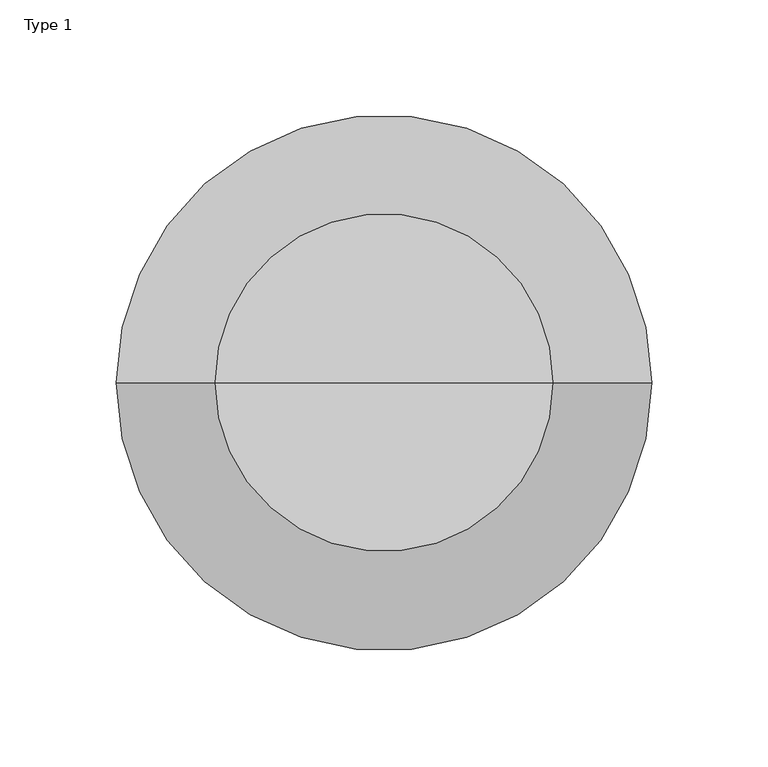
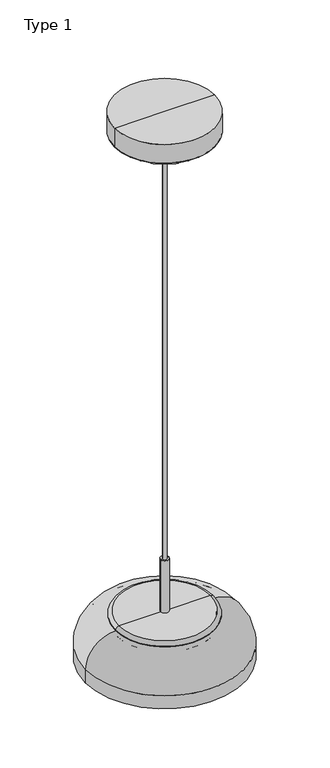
"""IFC4 building model written with IfcOpenShell, lengths in millimetres: light fixture geometry, Nuura - Blossi 1 - Ceiling Based : Type 1."""

import ifcopenshell
import ifcopenshell.guid

model = None  # the IFC model being written
_history = None  # IfcOwnerHistory: only IFC2X3 demands one
_inside = {}  # id of a spatial element -> (the spatial element, [elements in it])
_under = {}  # id of a project, library or spatial element -> (it, [spatial elements below it])
_declared = {}  # id of a project -> (the project, [libraries it declares])
_typed = {}  # id of a type object -> (the type object, [elements of that type])
_made_of = {}  # id of a material, layer set ... -> (it, [elements and type objects made of it])


def new_model(schema):
    """Start an empty IFC model of exactly this schema.

    Asked for "IFC4X3", IfcOpenShell would pick the latest addendum, in which some entities
    have other attributes; the version numbers below select the first issue.
    IFC2X3 requires an IfcOwnerHistory on every rooted entity: one is made here for all.
    """
    global model, _history
    if schema == "IFC4X3":
        model = ifcopenshell.file(schema_version=(4, 3, 0, 0))
    else:
        model = ifcopenshell.file(schema=schema)
    _inside.clear()
    _under.clear()
    _declared.clear()
    _typed.clear()
    _made_of.clear()
    _history = None
    if model.schema == "IFC2X3":
        org = make("IfcOrganization", Name="unknown")
        user = make(
            "IfcPersonAndOrganization",
            ThePerson=make("IfcPerson", FamilyName="unknown"),
            TheOrganization=org,
        )
        app = make(
            "IfcApplication",
            ApplicationDeveloper=org,
            Version="unknown",
            ApplicationFullName="unknown",
            ApplicationIdentifier="unknown",
        )
        _history = make(
            "IfcOwnerHistory",
            OwningUser=user,
            OwningApplication=app,
            ChangeAction="ADDED",
            CreationDate=0,
        )
    return model


def make(cls, **values):
    """One entity of the class cls with the attributes given. An attribute that is None is left unset."""
    return model.create_entity(
        cls, **{name: value for name, value in values.items() if value is not None}
    )


def rooted(cls, **values):
    """An entity with a GlobalId (a new one), such as an element, a storey or a relation."""
    return make(cls, GlobalId=ifcopenshell.guid.new(), OwnerHistory=_history, **values)


def si_unit(unit_type, name, prefix=None):
    """IfcSIUnit, for example si_unit("LENGTHUNIT", "METRE", prefix="MILLI")."""
    return make("IfcSIUnit", UnitType=unit_type, Prefix=prefix, Name=name)


def assignment(units):
    """IfcUnitAssignment: the units of a project."""
    return None if units is None else make("IfcUnitAssignment", Units=units)


def point(xyz):
    """IfcCartesianPoint."""
    return None if xyz is None else make("IfcCartesianPoint", Coordinates=xyz)


def direction(xyz):
    """IfcDirection."""
    return None if xyz is None else make("IfcDirection", DirectionRatios=xyz)


def frame(location, z_axis=None, x_axis=None):
    """IfcAxis2Placement3D, a coordinate frame: its origin and axes. An axis left out is left unset."""
    return make(
        "IfcAxis2Placement3D",
        Location=point(location),
        Axis=direction(z_axis),
        RefDirection=direction(x_axis),
    )


def frame_2d(location, x_axis=None):
    """IfcAxis2Placement2D, a coordinate frame in the plane: its origin and x axis."""
    return make(
        "IfcAxis2Placement2D", Location=point(location), RefDirection=direction(x_axis)
    )


def origin():
    """The frame at (0, 0, 0) with its axes left unset."""
    return frame((0.0, 0.0, 0.0))


def origin_2d():
    """The frame at (0, 0) in the plane with its x axis left unset."""
    return frame_2d((0.0, 0.0))


def place(relative_to, where):
    """IfcLocalPlacement: puts the frame where relative to a parent placement (None: the world)."""
    return make(
        "IfcLocalPlacement", PlacementRelTo=relative_to, RelativePlacement=where
    )


def context(
    kind, dimensions, precision=None, world=None, true_north=None, identifier=None
):
    """IfcGeometricRepresentationContext, for example the 3D "Model" context."""
    return make(
        "IfcGeometricRepresentationContext",
        ContextIdentifier=identifier,
        ContextType=kind,
        CoordinateSpaceDimension=dimensions,
        Precision=precision,
        WorldCoordinateSystem=world,
        TrueNorth=true_north,
    )


def project(units=None, contexts=None):
    """IfcProject with its units and contexts."""
    return rooted(
        "IfcProject",
        Name="project",
        RepresentationContexts=contexts,
        UnitsInContext=assignment(units),
    )


def spatial(cls, under=None, at=None, **own):
    """A site, building, storey or space (cls), placed at a placement, below another one or the project."""
    s = rooted(cls, ObjectPlacement=at, **own)
    if under is not None:
        _under.setdefault(under.id(), (under, []))[1].append(s)
    return s


def polyline(points):
    """IfcPolyline through the points."""
    return make("IfcPolyline", Points=[point(p) for p in points])


def circle_curve(where, radius):
    """IfcCircle in the frame where."""
    return make("IfcCircle", Position=where, Radius=radius)


def ellipse_curve(where, semi_axis1, semi_axis2):
    """IfcEllipse in the frame where."""
    return make(
        "IfcEllipse", Position=where, SemiAxis1=semi_axis1, SemiAxis2=semi_axis2
    )


def trimmed(basis, trim1, trim2, sense, master):
    """IfcTrimmedCurve: the piece of a basis curve between two trims."""
    return make(
        "IfcTrimmedCurve",
        BasisCurve=basis,
        Trim1=trim1,
        Trim2=trim2,
        SenseAgreement=sense,
        MasterRepresentation=master,
    )


def segment(curve, same_sense, transition):
    """IfcCompositeCurveSegment."""
    return make(
        "IfcCompositeCurveSegment",
        Transition=transition,
        SameSense=same_sense,
        ParentCurve=curve,
    )


def composite_curve(segments, self_intersect=None):
    """IfcCompositeCurve: segments joined end to end."""
    return make("IfcCompositeCurve", Segments=segments, SelfIntersect=self_intersect)


def outline(outer, holes=None, kind="AREA"):
    """IfcArbitraryClosedProfileDef: a profile drawn as a closed curve; with holes, ...WithVoids."""
    if holes is None:
        return make("IfcArbitraryClosedProfileDef", ProfileType=kind, OuterCurve=outer)
    return make(
        "IfcArbitraryProfileDefWithVoids",
        ProfileType=kind,
        OuterCurve=outer,
        InnerCurves=holes,
    )


def extrude(swept, where, along, depth):
    """IfcExtrudedAreaSolid: the profile swept, set in the frame where, extruded along a direction by depth."""
    return make(
        "IfcExtrudedAreaSolid",
        SweptArea=swept,
        Position=where,
        ExtrudedDirection=direction(along),
        Depth=depth,
    )


def shape(context_of_items, identifier, shape_type, items):
    """IfcShapeRepresentation: the items that make up one representation, for example the "Body"."""
    return make(
        "IfcShapeRepresentation",
        ContextOfItems=context_of_items,
        RepresentationIdentifier=identifier,
        RepresentationType=shape_type,
        Items=items,
    )


def source(mapping_origin, context_of_items, identifier, shape_type, items):
    """IfcRepresentationMap: a shape defined once, which mapped items show again and again."""
    return make(
        "IfcRepresentationMap",
        MappingOrigin=mapping_origin,
        MappedRepresentation=shape(context_of_items, identifier, shape_type, items),
    )


def transform(
    local_origin,
    x_axis=None,
    y_axis=None,
    z_axis=None,
    scale=None,
    scale2=None,
    scale3=None,
    uniform=True,
):
    """IfcCartesianTransformationOperator3D, or its non-uniform kind. x_axis, y_axis, z_axis: its Axis1, 2, 3."""
    if uniform:
        return make(
            "IfcCartesianTransformationOperator3D",
            Axis1=direction(x_axis),
            Axis2=direction(y_axis),
            LocalOrigin=point(local_origin),
            Scale=scale,
            Axis3=direction(z_axis),
        )
    return make(
        "IfcCartesianTransformationOperator3DnonUniform",
        Axis1=direction(x_axis),
        Axis2=direction(y_axis),
        LocalOrigin=point(local_origin),
        Scale=scale,
        Axis3=direction(z_axis),
        Scale2=scale2,
        Scale3=scale3,
    )


def mapped(mapping_source, mapping_target):
    """IfcMappedItem: shows the shape of a source again, moved by a transform."""
    return make(
        "IfcMappedItem", MappingSource=mapping_source, MappingTarget=mapping_target
    )


def made_of(thing, what):
    """Note that an element or type object is made of a material, layer set ...; save() writes the relation."""
    if what is not None:
        _made_of.setdefault(what.id(), (what, []))[1].append(thing)
    return thing


def element(
    cls,
    number,
    at=None,
    inside=None,
    cuts=None,
    type_object=None,
    material=None,
    context=None,
    identifier="Body",
    shape_type=None,
    held_by="IfcProductDefinitionShape",
    body=None,
    shapes=None,
    **own,
):
    """One element of the class cls, such as IfcWall. Its Tag is "e" and its number.

    at: its placement. inside: the storey or other place that contains it. cuts: it is an
    opening in that element (IfcRelVoidsElement). A single representation is given by context,
    identifier, shape_type and body (its items); several are given by shapes. held_by: the class
    of the entity that holds the representations. save() writes the other relations.
    """
    e = rooted(cls, Tag="e%d" % number, ObjectPlacement=at, **own)
    if body is not None:
        shapes = [shape(context, identifier, shape_type, body)]
    if shapes is not None:
        e.Representation = make(held_by, Representations=shapes)
    if inside is not None:
        _inside.setdefault(inside.id(), (inside, []))[1].append(e)
    if cuts is not None:
        rooted(
            "IfcRelVoidsElement", RelatingBuildingElement=cuts, RelatedOpeningElement=e
        )
    if type_object is not None:
        _typed.setdefault(type_object.id(), (type_object, []))[1].append(e)
    return made_of(e, material)


def aggregate(whole, parts):
    """IfcRelAggregates: a whole, such as a stair, and the parts it consists of."""
    return rooted("IfcRelAggregates", RelatingObject=whole, RelatedObjects=parts)


def save(model, path):
    """Write the relations noted so far, then the file.

    IfcRelAggregates (storeys below a building ...), IfcRelContainedInSpatialStructure (elements
    in a storey), IfcRelDefinesByType, IfcRelAssociatesMaterial and IfcRelDeclares: one each for
    every whole, place, type object, material and project.
    """
    for whole, parts in _under.values():
        aggregate(whole, parts)
    for where, things in _inside.values():
        rooted(
            "IfcRelContainedInSpatialStructure",
            RelatedElements=things,
            RelatingStructure=where,
        )
    for kind, things in _typed.values():
        rooted("IfcRelDefinesByType", RelatedObjects=things, RelatingType=kind)
    for what, things in _made_of.values():
        rooted("IfcRelAssociatesMaterial", RelatedObjects=things, RelatingMaterial=what)
    for by, libraries in _declared.values():
        rooted("IfcRelDeclares", RelatingContext=by, RelatedDefinitions=libraries)
    model.write(path)


def plane_surface(at):
    """IfcPlane: the flat surface through the origin of the frame at, square to its z axis."""
    return make("IfcPlane", Position=at)


def cylinder_surface(at, radius):
    """IfcCylindricalSurface: all points at the distance radius from the z axis of the frame at."""
    return make("IfcCylindricalSurface", Position=at, Radius=radius)


def revolved_surface(curve, axis_point, axis_direction):
    """IfcSurfaceOfRevolution: the curve turned about the line through axis_point along axis_direction."""
    return make(
        "IfcSurfaceOfRevolution",
        SweptCurve=make("IfcArbitraryOpenProfileDef", ProfileType="CURVE", Curve=curve),
        AxisPosition=make("IfcAxis1Placement", Location=point(axis_point), Axis=direction(axis_direction)),
    )


def advanced_brep(points, edges, surfaces, faces):
    """IfcAdvancedBrep: a solid bounded by faces that lie on surfaces and meet in shared edges.

    An edge is (start, end): straight between two places in points (the first is 0);
    or (start, end, curve); or (start, end, curve, False) where it runs against its curve.
    A face is (place in surfaces, loops), or (place, loops, False) where it looks against
    its surface's normal. A loop lists edges by number (the first is 1), with a minus sign
    where the edge is run from its end to its start. The first loop is the outer one.
    """
    corners = [point(p) for p in points]
    vertices = [make("IfcVertexPoint", VertexGeometry=c) for c in corners]
    made = []
    for start, end, *more in edges:
        made.append(
            make(
                "IfcEdgeCurve",
                EdgeStart=vertices[start],
                EdgeEnd=vertices[end],
                EdgeGeometry=more[0] if more else make("IfcPolyline", Points=[corners[start], corners[end]]),
                SameSense=more[1] if len(more) > 1 else True,
            )
        )
    hull = []
    for where, loops, *sense in faces:
        bounds = []
        for j, loop in enumerate(loops):
            ring = [make("IfcOrientedEdge", EdgeElement=made[abs(k) - 1], Orientation=k > 0) for k in loop]
            bounds.append(
                make(
                    "IfcFaceOuterBound" if j == 0 else "IfcFaceBound",
                    Bound=make("IfcEdgeLoop", EdgeList=ring),
                    Orientation=True,
                )
            )
        hull.append(make("IfcAdvancedFace", Bounds=bounds, FaceSurface=surfaces[where], SameSense=sense[0] if sense else True))
    return make("IfcAdvancedBrep", Outer=make("IfcClosedShell", CfsFaces=hull))


def type_1_ec86bb28(model_context):
    return source(origin(), model_context, "Body", "SolidModel", [
        advanced_brep(
        [(-65.0, 0.0, 1671.4), (65.0, 0.0, 1671.4), (65.0, 0.0, 1668.4), (-65.0, 0.0, 1668.4), (-61.0, 0.0, 1671.4), (61.0, 0.0, 1671.4), (-61.0, 0.0, 1664.4), (61.0, 0.0, 1664.4), (-71.0, 0.0, 1664.4), (71.0, 0.0, 1664.4), (-111.0, 0.0, 1624.4), (111.0, 0.0, 1624.4), (-111.0, 0.0, 1604.4), (111.0, 0.0, 1604.4), (-115.0, 0.0, 1604.4), (115.0, 0.0, 1604.4), (-115.0, 0.0, 1624.4), (115.0, 0.0, 1624.4), (-71.0, 0.0, 1668.4), (71.0, 0.0, 1668.4)],
        [
            (0, 1, circle_curve(frame((0.0, 0.0, 1671.4), z_axis=(0.0, 0.0, -1.0), x_axis=(1.0, 0.0, 0.0)), 65.0)),
            (1, 2),
            (2, 3, circle_curve(frame((0.0, 0.0, 1668.4), z_axis=(0.0, 0.0, 1.0), x_axis=(1.0, 0.0, 0.0)), 65.0)),
            (3, 0),
            (1, 0, circle_curve(frame((0.0, 0.0, 1671.4), z_axis=(0.0, 0.0, -1.0), x_axis=(1.0, 0.0, 0.0)), 65.0)),
            (3, 2, circle_curve(frame((0.0, 0.0, 1668.4), z_axis=(0.0, 0.0, 1.0), x_axis=(1.0, 0.0, 0.0)), 65.0)),
            (4, 5, circle_curve(frame((0.0, 0.0, 1671.4), z_axis=(0.0, 0.0, -1.0), x_axis=(1.0, 0.0, 0.0)), 61.0)),
            (5, 1),
            (0, 4),
            (5, 4, circle_curve(frame((0.0, 0.0, 1671.4), z_axis=(0.0, 0.0, -1.0), x_axis=(1.0, 0.0, 0.0)), 61.0)),
            (6, 7, circle_curve(frame((0.0, 0.0, 1664.4), z_axis=(0.0, 0.0, -1.0), x_axis=(1.0, 0.0, 0.0)), 61.0)),
            (7, 5),
            (4, 6),
            (7, 6, circle_curve(frame((0.0, 0.0, 1664.4), z_axis=(0.0, 0.0, -1.0), x_axis=(1.0, 0.0, 0.0)), 61.0)),
            (8, 9, circle_curve(frame((0.0, 0.0, 1664.4), z_axis=(0.0, 0.0, -1.0), x_axis=(1.0, 0.0, 0.0)), 71.0)),
            (9, 7),
            (6, 8),
            (9, 8, circle_curve(frame((0.0, 0.0, 1664.4), z_axis=(0.0, 0.0, -1.0), x_axis=(1.0, 0.0, 0.0)), 71.0)),
            (10, 11, circle_curve(frame((0.0, 0.0, 1624.4), z_axis=(0.0, 0.0, -1.0), x_axis=(1.0, 0.0, 0.0)), 111.0)),
            (11, 9, circle_curve(frame((71.0, 0.0, 1624.4), z_axis=(0.0, -1.0, 0.0), x_axis=(1.0, 0.0, 0.0)), 40.0)),
            (8, 10, circle_curve(frame((-71.0, 0.0, 1624.4), z_axis=(0.0, -1.0, 0.0), x_axis=(-1.0, 0.0, 0.0)), 40.0)),
            (11, 10, circle_curve(frame((0.0, 0.0, 1624.4), z_axis=(0.0, 0.0, -1.0), x_axis=(1.0, 0.0, 0.0)), 111.0)),
            (12, 13, circle_curve(frame((0.0, 0.0, 1604.4), z_axis=(0.0, 0.0, -1.0), x_axis=(1.0, 0.0, 0.0)), 111.0)),
            (13, 11),
            (10, 12),
            (13, 12, circle_curve(frame((0.0, 0.0, 1604.4), z_axis=(0.0, 0.0, -1.0), x_axis=(1.0, 0.0, 0.0)), 111.0)),
            (14, 15, circle_curve(frame((0.0, 0.0, 1604.4), z_axis=(0.0, 0.0, -1.0), x_axis=(1.0, 0.0, 0.0)), 115.0)),
            (15, 13),
            (12, 14),
            (15, 14, circle_curve(frame((0.0, 0.0, 1604.4), z_axis=(0.0, 0.0, -1.0), x_axis=(1.0, 0.0, 0.0)), 115.0)),
            (16, 17, circle_curve(frame((0.0, 0.0, 1624.4), z_axis=(0.0, 0.0, -1.0), x_axis=(1.0, 0.0, 0.0)), 115.0)),
            (17, 15),
            (14, 16),
            (17, 16, circle_curve(frame((0.0, 0.0, 1624.4), z_axis=(0.0, 0.0, -1.0), x_axis=(1.0, 0.0, 0.0)), 115.0)),
            (18, 19, circle_curve(frame((0.0, 0.0, 1668.4), z_axis=(0.0, 0.0, -1.0), x_axis=(1.0, 0.0, 0.0)), 71.0)),
            (19, 17, circle_curve(frame((71.0, 0.0, 1624.4), z_axis=(0.0, 1.0, 0.0), x_axis=(1.0, 0.0, 0.0)), 44.0)),
            (16, 18, circle_curve(frame((-71.0, 0.0, 1624.4), z_axis=(0.0, 1.0, 0.0), x_axis=(-1.0, 0.0, 0.0)), 44.0)),
            (19, 18, circle_curve(frame((0.0, 0.0, 1668.4), z_axis=(0.0, 0.0, -1.0), x_axis=(1.0, 0.0, 0.0)), 71.0)),
            (2, 19),
            (18, 3),
        ],
        [
            cylinder_surface(frame((0.0, 0.0, 1706.7574384), z_axis=(0.0, 0.0, 1.0), x_axis=(1.0, 0.0, 0.0)), 65.0),
            plane_surface(frame((0.0, 0.0, 1671.4), z_axis=(0.0, 0.0, 1.0), x_axis=(1.0, 0.0, 0.0))),
            revolved_surface(polyline([(61.0, 0.0, 1671.4), (61.0, 0.0, 1664.4)]), (0.0, 0.0, 1706.7574384), (0.0, 0.0, 1.0)),
            plane_surface(frame((0.0, 0.0, 1664.4), z_axis=(0.0, 0.0, -1.0), x_axis=(1.0, 0.0, 0.0))),
            revolved_surface(trimmed(ellipse_curve(frame((71.0, 0.0, 1624.4), z_axis=(0.0, 1.0, 0.0), x_axis=(1.0, 0.0, 0.0)), 40.0, 40.0), [point((71.0, 0.0, 1664.4))], [point((111.0, 0.0, 1624.4))], True, "CARTESIAN"), (0.0, 0.0, 1706.7574384), (0.0, 0.0, 1.0)),
            revolved_surface(polyline([(111.0, 0.0, 1624.4), (111.0, 0.0, 1604.4)]), (0.0, 0.0, 1706.7574384), (0.0, 0.0, 1.0)),
            plane_surface(frame((0.0, 0.0, 1604.4), z_axis=(0.0, 0.0, -1.0), x_axis=(1.0, 0.0, 0.0))),
            cylinder_surface(frame((0.0, 0.0, 1706.7574384), z_axis=(0.0, 0.0, 1.0), x_axis=(1.0, 0.0, 0.0)), 115.0),
            revolved_surface(trimmed(ellipse_curve(frame((71.0, 0.0, 1624.4), z_axis=(0.0, -1.0, 0.0), x_axis=(1.0, 0.0, 0.0)), 44.0, 44.0), [point((115.0, 0.0, 1624.4))], [point((71.0, 0.0, 1668.4))], True, "CARTESIAN"), (0.0, 0.0, 1706.7574384), (0.0, 0.0, 1.0)),
            plane_surface(frame((0.0, 0.0, 1668.4), z_axis=(0.0, 0.0, 1.0), x_axis=(1.0, 0.0, 0.0))),
        ],
        [
            (0, [[1, 2, 3, 4]]),
            (0, [[5, -4, 6, -2]]),
            (1, [[7, 8, -1, 9]]),
            (1, [[10, -9, -5, -8]]),
            (2, [[11, 12, -7, 13]]),
            (2, [[14, -13, -10, -12]]),
            (3, [[15, 16, -11, 17]]),
            (3, [[18, -17, -14, -16]]),
            (4, [[19, 20, -15, 21]]),
            (4, [[22, -21, -18, -20]]),
            (5, [[23, 24, -19, 25]]),
            (5, [[26, -25, -22, -24]]),
            (6, [[27, 28, -23, 29]]),
            (6, [[30, -29, -26, -28]]),
            (7, [[31, 32, -27, 33]]),
            (7, [[34, -33, -30, -32]]),
            (8, [[35, 36, -31, 37]]),
            (8, [[38, -37, -34, -36]]),
            (9, [[-3, 39, -35, 40]]),
            (9, [[-6, -40, -38, -39]]),
        ],
    ),
        advanced_brep(
        [(5.85, 0.0, 1624.9), (-5.85, 0.0, 1624.9), (-5.85, 0.0, 1658.4), (5.85, 0.0, 1658.4), (0.0, 0.0, 1624.9), (0.0, 0.0, 1658.4)],
        [
            (0, 1, circle_curve(frame((0.0, 0.0, 1624.9), z_axis=(0.0, 0.0, 1.0), x_axis=(-1.0, 0.0, 0.0)), 5.85)),
            (1, 2),
            (2, 3, circle_curve(frame((0.0, 0.0, 1658.4), z_axis=(0.0, 0.0, -1.0), x_axis=(-1.0, 0.0, 0.0)), 5.85)),
            (3, 0),
            (1, 0, circle_curve(frame((0.0, 0.0, 1624.9), z_axis=(0.0, 0.0, 1.0), x_axis=(-1.0, 0.0, 0.0)), 5.85)),
            (3, 2, circle_curve(frame((0.0, 0.0, 1658.4), z_axis=(0.0, 0.0, -1.0), x_axis=(-1.0, 0.0, 0.0)), 5.85)),
            (4, 1),
            (0, 4),
            (2, 5),
            (5, 3),
        ],
        [
            cylinder_surface(frame((0.0, 0.0, 1547.5132457), z_axis=(0.0, 0.0, -1.0), x_axis=(-1.0, 0.0, 0.0)), 5.85),
            plane_surface(frame((0.0, 0.0, 1624.9), z_axis=(0.0, 0.0, -1.0), x_axis=(-1.0, 0.0, 0.0))),
            plane_surface(frame((0.0, 0.0, 1658.4), z_axis=(0.0, 0.0, 1.0), x_axis=(-1.0, 0.0, 0.0))),
        ],
        [
            (0, [[1, 2, 3, 4]]),
            (0, [[5, -4, 6, -2]]),
            (1, [[7, -1, 8]]),
            (1, [[-8, -5, -7]]),
            (2, [[-3, 9, 10]]),
            (2, [[-6, -10, -9]]),
        ],
    ),
        extrude(outline(composite_curve([segment(trimmed(circle_curve(origin_2d(), 3.0), [point((-3.0, 0.0))], [point((3.0, 0.0))], False, "CARTESIAN"), True, "CONTINUOUS"), segment(trimmed(circle_curve(origin_2d(), 3.0), [point((3.0, 0.0))], [point((-3.0, 0.0))], False, "CARTESIAN"), True, "CONTINUOUS")], self_intersect=False)), frame((0.0, 0.0, 1754.4), z_axis=(0.0, 0.0, 1.0), x_axis=(1.0, 0.0, 0.0)), (0.0, 0.0, 1.0), 654.0),
        advanced_brep(
        [(-65.0, 0.0, 1671.4), (65.0, 0.0, 1671.4), (0.0, 0.0, 1671.4), (-65.0, 0.0, 1668.4), (65.0, 0.0, 1668.4), (-71.5, 0.0, 1668.4), (71.5, 0.0, 1668.4), (-71.5, 0.0, 1669.4), (71.5, 0.0, 1669.4), (-66.5, 0.0, 1674.4), (66.5, 0.0, 1674.4), (-6.0, 0.0, 1674.4), (6.0, 0.0, 1674.4), (-6.0, 0.0, 1754.4), (6.0, 0.0, 1754.4), (0.0, 0.0, 1754.4)],
        [
            (0, 1, circle_curve(frame((0.0, 0.0, 1671.4), z_axis=(0.0, 0.0, -1.0), x_axis=(1.0, 0.0, 0.0)), 65.0)),
            (1, 2),
            (2, 0),
            (1, 0, circle_curve(frame((0.0, 0.0, 1671.4), z_axis=(0.0, 0.0, -1.0), x_axis=(1.0, 0.0, 0.0)), 65.0)),
            (3, 4, circle_curve(frame((0.0, 0.0, 1668.4), z_axis=(0.0, 0.0, -1.0), x_axis=(1.0, 0.0, 0.0)), 65.0)),
            (4, 1),
            (0, 3),
            (4, 3, circle_curve(frame((0.0, 0.0, 1668.4), z_axis=(0.0, 0.0, -1.0), x_axis=(1.0, 0.0, 0.0)), 65.0)),
            (5, 6, circle_curve(frame((0.0, 0.0, 1668.4), z_axis=(0.0, 0.0, -1.0), x_axis=(1.0, 0.0, 0.0)), 71.5)),
            (6, 4),
            (3, 5),
            (6, 5, circle_curve(frame((0.0, 0.0, 1668.4), z_axis=(0.0, 0.0, -1.0), x_axis=(1.0, 0.0, 0.0)), 71.5)),
            (7, 8, circle_curve(frame((0.0, 0.0, 1669.4), z_axis=(0.0, 0.0, -1.0), x_axis=(1.0, 0.0, 0.0)), 71.5)),
            (8, 6),
            (5, 7),
            (8, 7, circle_curve(frame((0.0, 0.0, 1669.4), z_axis=(0.0, 0.0, -1.0), x_axis=(1.0, 0.0, 0.0)), 71.5)),
            (9, 10, circle_curve(frame((0.0, 0.0, 1674.4), z_axis=(0.0, 0.0, -1.0), x_axis=(1.0, 0.0, 0.0)), 66.5)),
            (10, 8, circle_curve(frame((66.5, 0.0, 1669.4), z_axis=(0.0, 1.0, 0.0), x_axis=(1.0, 0.0, 0.0)), 5.0)),
            (7, 9, circle_curve(frame((-66.5, 0.0, 1669.4), z_axis=(0.0, 1.0, 0.0), x_axis=(-1.0, 0.0, 0.0)), 5.0)),
            (10, 9, circle_curve(frame((0.0, 0.0, 1674.4), z_axis=(0.0, 0.0, -1.0), x_axis=(1.0, 0.0, 0.0)), 66.5)),
            (11, 12, circle_curve(frame((0.0, 0.0, 1674.4), z_axis=(0.0, 0.0, -1.0), x_axis=(1.0, 0.0, 0.0)), 6.0)),
            (12, 10),
            (9, 11),
            (12, 11, circle_curve(frame((0.0, 0.0, 1674.4), z_axis=(0.0, 0.0, -1.0), x_axis=(1.0, 0.0, 0.0)), 6.0)),
            (13, 14, circle_curve(frame((0.0, 0.0, 1754.4), z_axis=(0.0, 0.0, -1.0), x_axis=(1.0, 0.0, 0.0)), 6.0)),
            (14, 12),
            (11, 13),
            (14, 13, circle_curve(frame((0.0, 0.0, 1754.4), z_axis=(0.0, 0.0, -1.0), x_axis=(1.0, 0.0, 0.0)), 6.0)),
            (15, 14),
            (13, 15),
        ],
        [
            plane_surface(frame((0.0, 0.0, 1671.4), z_axis=(0.0, 0.0, -1.0), x_axis=(1.0, 0.0, 0.0))),
            revolved_surface(polyline([(65.0, 0.0, 1671.4), (65.0, 0.0, 1668.4)]), (0.0, 0.0, 1768.3899823), (0.0, 0.0, 1.0)),
            plane_surface(frame((0.0, 0.0, 1668.4), z_axis=(0.0, 0.0, -1.0), x_axis=(1.0, 0.0, 0.0))),
            cylinder_surface(frame((0.0, 0.0, 1768.3899823), z_axis=(0.0, 0.0, 1.0), x_axis=(1.0, 0.0, 0.0)), 71.5),
            revolved_surface(trimmed(ellipse_curve(frame((66.5, 0.0, 1669.4), z_axis=(0.0, -1.0, 0.0), x_axis=(1.0, 0.0, 0.0)), 5.0, 5.0), [point((71.5, 0.0, 1669.4))], [point((66.5, 0.0, 1674.4))], True, "CARTESIAN"), (0.0, 0.0, 1768.3899823), (0.0, 0.0, 1.0)),
            plane_surface(frame((0.0, 0.0, 1674.4), z_axis=(0.0, 0.0, 1.0), x_axis=(1.0, 0.0, 0.0))),
            cylinder_surface(frame((0.0, 0.0, 1768.3899823), z_axis=(0.0, 0.0, 1.0), x_axis=(1.0, 0.0, 0.0)), 6.0),
            plane_surface(frame((0.0, 0.0, 1754.4), z_axis=(0.0, 0.0, 1.0), x_axis=(1.0, 0.0, 0.0))),
        ],
        [
            (0, [[1, 2, 3]]),
            (0, [[4, -3, -2]]),
            (1, [[5, 6, -1, 7]]),
            (1, [[8, -7, -4, -6]]),
            (2, [[9, 10, -5, 11]]),
            (2, [[12, -11, -8, -10]]),
            (3, [[13, 14, -9, 15]]),
            (3, [[16, -15, -12, -14]]),
            (4, [[17, 18, -13, 19]]),
            (4, [[20, -19, -16, -18]]),
            (5, [[21, 22, -17, 23]]),
            (5, [[24, -23, -20, -22]]),
            (6, [[25, 26, -21, 27]]),
            (6, [[28, -27, -24, -26]]),
            (7, [[29, -25, 30]]),
            (7, [[-30, -28, -29]]),
        ],
    ),
        advanced_brep(
        [(-66.5, 0.0, 1658.4), (66.5, 0.0, 1658.4), (0.0, 0.0, 1658.4), (-71.5, 0.0, 1663.4), (71.5, 0.0, 1663.4), (-71.5, 0.0, 1664.4), (71.5, 0.0, 1664.4), (0.0, 0.0, 1664.4)],
        [
            (0, 1, circle_curve(frame((0.0, 0.0, 1658.4), z_axis=(0.0, 0.0, -1.0), x_axis=(1.0, 0.0, 0.0)), 66.5)),
            (1, 2),
            (2, 0),
            (1, 0, circle_curve(frame((0.0, 0.0, 1658.4), z_axis=(0.0, 0.0, -1.0), x_axis=(1.0, 0.0, 0.0)), 66.5)),
            (3, 4, circle_curve(frame((0.0, 0.0, 1663.4), z_axis=(0.0, 0.0, -1.0), x_axis=(1.0, 0.0, 0.0)), 71.5)),
            (4, 1, circle_curve(frame((66.5, 0.0, 1663.4), z_axis=(0.0, 1.0, 0.0), x_axis=(1.0, 0.0, 0.0)), 5.0)),
            (0, 3, circle_curve(frame((-66.5, 0.0, 1663.4), z_axis=(0.0, 1.0, 0.0), x_axis=(-1.0, 0.0, 0.0)), 5.0)),
            (4, 3, circle_curve(frame((0.0, 0.0, 1663.4), z_axis=(0.0, 0.0, -1.0), x_axis=(1.0, 0.0, 0.0)), 71.5)),
            (5, 6, circle_curve(frame((0.0, 0.0, 1664.4), z_axis=(0.0, 0.0, -1.0), x_axis=(1.0, 0.0, 0.0)), 71.5)),
            (6, 4),
            (3, 5),
            (6, 5, circle_curve(frame((0.0, 0.0, 1664.4), z_axis=(0.0, 0.0, -1.0), x_axis=(1.0, 0.0, 0.0)), 71.5)),
            (7, 6),
            (5, 7),
        ],
        [
            plane_surface(frame((0.0, 0.0, 1658.4), z_axis=(0.0, 0.0, -1.0), x_axis=(1.0, 0.0, 0.0))),
            revolved_surface(trimmed(ellipse_curve(frame((66.5, 0.0, 1663.4), z_axis=(0.0, -1.0, 0.0), x_axis=(1.0, 0.0, 0.0)), 5.0, 5.0), [point((66.5, 0.0, 1658.4))], [point((71.5, 0.0, 1663.4))], True, "CARTESIAN"), (0.0, 0.0, 1768.3899823), (0.0, 0.0, 1.0)),
            cylinder_surface(frame((0.0, 0.0, 1768.3899823), z_axis=(0.0, 0.0, 1.0), x_axis=(1.0, 0.0, 0.0)), 71.5),
            plane_surface(frame((0.0, 0.0, 1664.4), z_axis=(0.0, 0.0, 1.0), x_axis=(1.0, 0.0, 0.0))),
        ],
        [
            (0, [[1, 2, 3]]),
            (0, [[4, -3, -2]]),
            (1, [[5, 6, -1, 7]]),
            (1, [[8, -7, -4, -6]]),
            (2, [[9, 10, -5, 11]]),
            (2, [[12, -11, -8, -10]]),
            (3, [[13, -9, 14]]),
            (3, [[-14, -12, -13]]),
        ],
    ),
        advanced_brep(
        [(-33.75, 0.0, 1618.4242248), (33.75, 0.0, 1618.4242248), (27.2257752, 0.0, 1611.9), (-27.2257752, 0.0, 1611.9), (-33.75, 0.0, 1624.9), (33.75, 0.0, 1624.9), (0.0, 0.0, 1624.9), (0.0, 0.0, 1611.9)],
        [
            (0, 1, circle_curve(frame((0.0, 0.0, 1618.4242248), z_axis=(0.0, 0.0, -1.0), x_axis=(1.0, 0.0, 0.0)), 33.75)),
            (1, 2, circle_curve(frame((27.2257752, 0.0, 1618.4242248), z_axis=(0.0, 1.0, 0.0), x_axis=(1.0, 0.0, 0.0)), 6.5242248)),
            (2, 3, circle_curve(frame((0.0, 0.0, 1611.9), z_axis=(0.0, 0.0, 1.0), x_axis=(1.0, 0.0, 0.0)), 27.2257752)),
            (3, 0, circle_curve(frame((-27.2257752, 0.0, 1618.4242248), z_axis=(0.0, 1.0, 0.0), x_axis=(-1.0, 0.0, 0.0)), 6.5242248)),
            (1, 0, circle_curve(frame((0.0, 0.0, 1618.4242248), z_axis=(0.0, 0.0, -1.0), x_axis=(1.0, 0.0, 0.0)), 33.75)),
            (3, 2, circle_curve(frame((0.0, 0.0, 1611.9), z_axis=(0.0, 0.0, 1.0), x_axis=(1.0, 0.0, 0.0)), 27.2257752)),
            (4, 5, circle_curve(frame((0.0, 0.0, 1624.9), z_axis=(0.0, 0.0, -1.0), x_axis=(1.0, 0.0, 0.0)), 33.75)),
            (5, 1),
            (0, 4),
            (5, 4, circle_curve(frame((0.0, 0.0, 1624.9), z_axis=(0.0, 0.0, -1.0), x_axis=(1.0, 0.0, 0.0)), 33.75)),
            (6, 5),
            (4, 6),
            (2, 7),
            (7, 3),
        ],
        [
            revolved_surface(trimmed(ellipse_curve(frame((27.2257752, 0.0, 1618.4242248), z_axis=(0.0, -1.0, 0.0), x_axis=(1.0, 0.0, 0.0)), 6.5242248, 6.5242248), [point((27.2257752, 0.0, 1611.9))], [point((33.75, 0.0, 1618.4242248))], True, "CARTESIAN"), (0.0, 0.0, 1768.3899823), (0.0, 0.0, 1.0)),
            cylinder_surface(frame((0.0, 0.0, 1768.3899823), z_axis=(0.0, 0.0, 1.0), x_axis=(1.0, 0.0, 0.0)), 33.75),
            plane_surface(frame((0.0, 0.0, 1624.9), z_axis=(0.0, 0.0, 1.0), x_axis=(1.0, 0.0, 0.0))),
            plane_surface(frame((0.0, 0.0, 1611.9), z_axis=(0.0, 0.0, -1.0), x_axis=(1.0, 0.0, 0.0))),
        ],
        [
            (0, [[1, 2, 3, 4]]),
            (0, [[5, -4, 6, -2]]),
            (1, [[7, 8, -1, 9]]),
            (1, [[10, -9, -5, -8]]),
            (2, [[11, -7, 12]]),
            (2, [[-12, -10, -11]]),
            (3, [[-3, 13, 14]]),
            (3, [[-6, -14, -13]]),
        ],
    ),
        advanced_brep(
        [(-72.5, 0.0, 2438.4), (72.5, 0.0, 2438.4), (72.5, 0.0, 2409.9009326), (-72.5, 0.0, 2409.9009326), (0.0, 0.0, 2438.4), (-7.0, 0.0, 2392.4), (7.0, 0.0, 2392.4), (0.0, 0.0, 2392.4), (-7.0, 0.0, 2408.4), (7.0, 0.0, 2408.4), (-70.9990674, 0.0, 2408.4), (70.9990674, 0.0, 2408.4)],
        [
            (0, 1, circle_curve(frame((0.0, 0.0, 2438.4), z_axis=(0.0, 0.0, -1.0), x_axis=(1.0, 0.0, 0.0)), 72.5)),
            (1, 2),
            (2, 3, circle_curve(frame((0.0, 0.0, 2409.9009326), z_axis=(0.0, 0.0, 1.0), x_axis=(1.0, 0.0, 0.0)), 72.5)),
            (3, 0),
            (1, 0, circle_curve(frame((0.0, 0.0, 2438.4), z_axis=(0.0, 0.0, -1.0), x_axis=(1.0, 0.0, 0.0)), 72.5)),
            (3, 2, circle_curve(frame((0.0, 0.0, 2409.9009326), z_axis=(0.0, 0.0, 1.0), x_axis=(1.0, 0.0, 0.0)), 72.5)),
            (4, 1),
            (0, 4),
            (5, 6, circle_curve(frame((0.0, 0.0, 2392.4), z_axis=(0.0, 0.0, -1.0), x_axis=(1.0, 0.0, 0.0)), 7.0)),
            (6, 7),
            (7, 5),
            (6, 5, circle_curve(frame((0.0, 0.0, 2392.4), z_axis=(0.0, 0.0, -1.0), x_axis=(1.0, 0.0, 0.0)), 7.0)),
            (8, 9, circle_curve(frame((0.0, 0.0, 2408.4), z_axis=(0.0, 0.0, -1.0), x_axis=(1.0, 0.0, 0.0)), 7.0)),
            (9, 6),
            (5, 8),
            (9, 8, circle_curve(frame((0.0, 0.0, 2408.4), z_axis=(0.0, 0.0, -1.0), x_axis=(1.0, 0.0, 0.0)), 7.0)),
            (10, 11, circle_curve(frame((0.0, 0.0, 2408.4), z_axis=(0.0, 0.0, -1.0), x_axis=(1.0, 0.0, 0.0)), 70.9990674)),
            (11, 9),
            (8, 10),
            (11, 10, circle_curve(frame((0.0, 0.0, 2408.4), z_axis=(0.0, 0.0, -1.0), x_axis=(1.0, 0.0, 0.0)), 70.9990674)),
            (2, 11, circle_curve(frame((70.9990674, 0.0, 2409.9009326), z_axis=(0.0, 1.0, 0.0), x_axis=(1.0, 0.0, 0.0)), 1.5009326)),
            (10, 3, circle_curve(frame((-70.9990674, 0.0, 2409.9009326), z_axis=(0.0, 1.0, 0.0), x_axis=(-1.0, 0.0, 0.0)), 1.5009326)),
        ],
        [
            cylinder_surface(frame((0.0, 0.0, 2503.4), z_axis=(0.0, 0.0, 1.0), x_axis=(1.0, 0.0, 0.0)), 72.5),
            plane_surface(frame((0.0, 0.0, 2438.4), z_axis=(0.0, 0.0, 1.0), x_axis=(1.0, 0.0, 0.0))),
            plane_surface(frame((0.0, 0.0, 2392.4), z_axis=(0.0, 0.0, -1.0), x_axis=(1.0, 0.0, 0.0))),
            cylinder_surface(frame((0.0, 0.0, 2503.4), z_axis=(0.0, 0.0, 1.0), x_axis=(1.0, 0.0, 0.0)), 7.0),
            plane_surface(frame((0.0, 0.0, 2408.4), z_axis=(0.0, 0.0, -1.0), x_axis=(1.0, 0.0, 0.0))),
            revolved_surface(trimmed(ellipse_curve(frame((70.9990674, 0.0, 2409.9009326), z_axis=(0.0, -1.0, 0.0), x_axis=(1.0, 0.0, 0.0)), 1.5009326, 1.5009326), [point((70.9990674, 0.0, 2408.4))], [point((72.5, 0.0, 2409.9009326))], True, "CARTESIAN"), (0.0, 0.0, 2503.4), (0.0, 0.0, 1.0)),
        ],
        [
            (0, [[1, 2, 3, 4]]),
            (0, [[5, -4, 6, -2]]),
            (1, [[7, -1, 8]]),
            (1, [[-8, -5, -7]]),
            (2, [[9, 10, 11]]),
            (2, [[12, -11, -10]]),
            (3, [[13, 14, -9, 15]]),
            (3, [[16, -15, -12, -14]]),
            (4, [[17, 18, -13, 19]]),
            (4, [[20, -19, -16, -18]]),
            (5, [[-3, 21, -17, 22]]),
            (5, [[-6, -22, -20, -21]]),
        ],
    ),
    ])


if __name__ == "__main__":
    model = new_model("IFC4")
    model_context = context("Model", 3, world=origin())
    ifc_project = project(units=[si_unit("LENGTHUNIT", "METRE", prefix="MILLI")], contexts=[model_context])
    site = spatial("IfcSite", under=ifc_project)
    building = spatial("IfcBuilding", under=site)
    placement = place(None, origin())
    type_1_shape = type_1_ec86bb28(model_context)
    element("IfcLightFixture", 1, ObjectType="Nuura - Blossi 1 - Ceiling Based : Type 1", at=placement, inside=building, context=model_context, shape_type="MappedRepresentation", body=[
        mapped(type_1_shape, transform((0.0, 0.0, 0.0), x_axis=(1.0, 0.0, 0.0), y_axis=(0.0, 1.0, 0.0), z_axis=(0.0, 0.0, 1.0))),
    ])
    save(model, "model.ifc")
